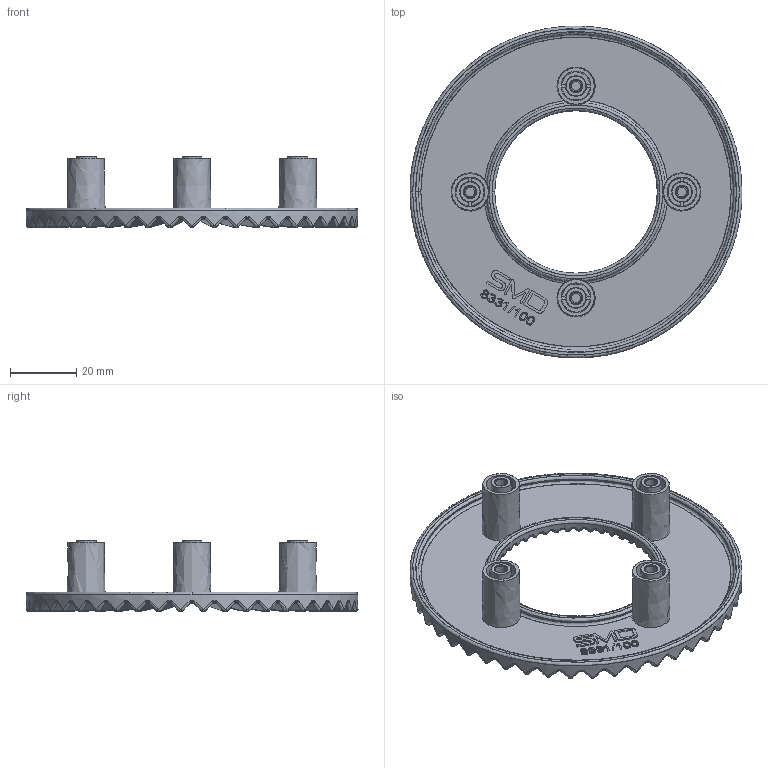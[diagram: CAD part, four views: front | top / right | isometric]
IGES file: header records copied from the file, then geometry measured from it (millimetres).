
Start section: C
Global section: file name: 8331-100_Final.igs; native system: By Siemens PLM Incorporated; preprocessor: XPlus GENERIC/IGES 16.0.42; author: Author; organization: Title; date: 20220504.113850; units: millimetre
Bounding box: 100.3 x 100.3 x 21.71 mm (x, y, z)
Surface area: 22437.7 mm2 (no closed solid volume)
Topology: 0 solids, 0 shells, 1417 faces, 7166 edges, 6844 vertices
Faces by surface type: bspline 1417
